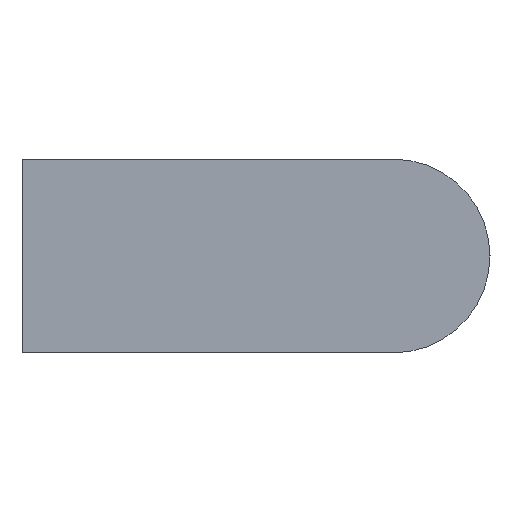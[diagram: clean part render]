
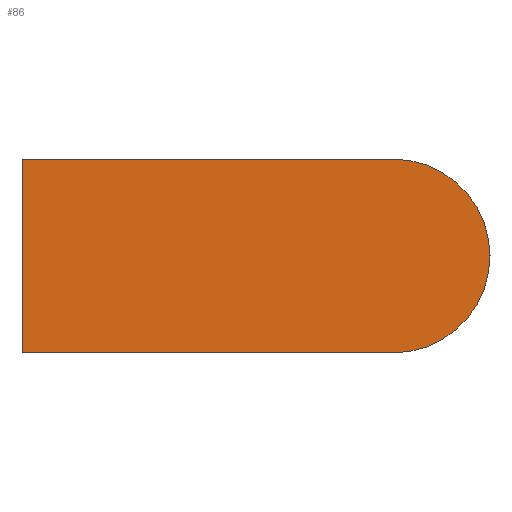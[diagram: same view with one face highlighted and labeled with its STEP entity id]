
A CAD part, left-side view. The second image highlights one B-rep face of the part: STEP entity #86.
In plain terms, the highlighted planar face has unit normal (-1, 0, 0).
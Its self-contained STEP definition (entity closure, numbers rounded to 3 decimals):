
#86 = ADVANCED_FACE( '', ( #179 ), #180, .F. );
#179 = FACE_OUTER_BOUND( '', #274, .T. );
#180 = PLANE( '', #275 );
#274 = EDGE_LOOP( '', ( #443, #444, #445, #446 ) );
#275 = AXIS2_PLACEMENT_3D( '', #447, #448, #449 );
#443 = ORIENTED_EDGE( '', *, *, #559, .F. );
#444 = ORIENTED_EDGE( '', *, *, #570, .F. );
#445 = ORIENTED_EDGE( '', *, *, #541, .F. );
#446 = ORIENTED_EDGE( '', *, *, #546, .F. );
#447 = CARTESIAN_POINT( '', ( -15., -28.04, 0. ) );
#448 = DIRECTION( '', ( 1., 0., 0. ) );
#449 = DIRECTION( '', ( 0., 0., -1. ) );
#541 = EDGE_CURVE( '', #638, #639, #640, .T. );
#546 = EDGE_CURVE( '', #647, #638, #648, .T. );
#559 = EDGE_CURVE( '', #665, #647, #666, .T. );
#570 = EDGE_CURVE( '', #639, #665, #680, .T. );
#638 = VERTEX_POINT( '', #770 );
#639 = VERTEX_POINT( '', #771 );
#640 = LINE( '', #772, #773 );
#647 = VERTEX_POINT( '', #783 );
#648 = CIRCLE( '', #784, 7.32 );
#665 = VERTEX_POINT( '', #805 );
#666 = LINE( '', #806, #807 );
#680 = LINE( '', #825, #826 );
#770 = CARTESIAN_POINT( '', ( -15., -28.04, -7.32 ) );
#771 = CARTESIAN_POINT( '', ( -15., 0., -7.32 ) );
#772 = CARTESIAN_POINT( '', ( -15., -28.04, -7.32 ) );
#773 = VECTOR( '', #877, 1000. );
#783 = CARTESIAN_POINT( '', ( -15., -28.04, 7.32 ) );
#784 = AXIS2_PLACEMENT_3D( '', #881, #882, #883 );
#805 = CARTESIAN_POINT( '', ( -15., 0., 7.32 ) );
#806 = CARTESIAN_POINT( '', ( -15., 0., 7.32 ) );
#807 = VECTOR( '', #900, 1000. );
#825 = CARTESIAN_POINT( '', ( -15., 0., -7.32 ) );
#826 = VECTOR( '', #911, 1000. );
#877 = DIRECTION( '', ( 0., 1., 0. ) );
#881 = CARTESIAN_POINT( '', ( -15., -28.04, 0. ) );
#882 = DIRECTION( '', ( 1., 0., 0. ) );
#883 = DIRECTION( '', ( 0., 0., -1. ) );
#900 = DIRECTION( '', ( 0., -1., 0. ) );
#911 = DIRECTION( '', ( 0., 0., 1. ) );
